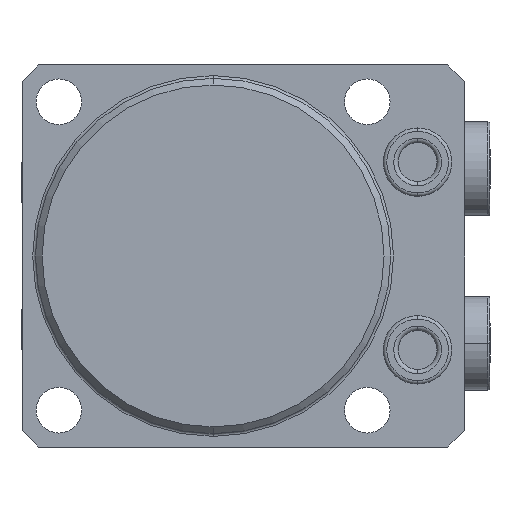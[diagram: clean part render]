
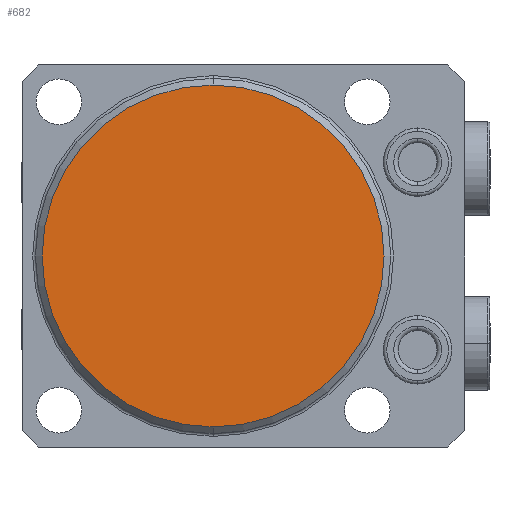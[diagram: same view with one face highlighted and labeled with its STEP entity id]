
A CAD part, front view. The second image highlights one B-rep face of the part: STEP entity #682.
In plain terms, the highlighted planar face has unit normal (0, -1, 0) as drawn and (0, 1, 0) by its records, which use the part's own axes.
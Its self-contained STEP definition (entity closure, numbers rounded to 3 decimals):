
#238=PLANE('',#4890);
#682=ADVANCED_FACE('',(#942),#238,.T.);
#942=FACE_OUTER_BOUND('',#1223,.F.);
#1223=EDGE_LOOP('',(#2843,#2844));
#2843=ORIENTED_EDGE('',*,*,#4065,.T.);
#2844=ORIENTED_EDGE('',*,*,#3970,.T.);
#3422=VERTEX_POINT('',#7450);
#3423=VERTEX_POINT('',#7451);
#3970=EDGE_CURVE('',#3422,#3423,#4374,.T.);
#4065=EDGE_CURVE('',#3423,#3422,#4394,.T.);
#4374=CIRCLE('',#4852,25.5);
#4394=CIRCLE('',#4889,25.5);
#4852=AXIS2_PLACEMENT_3D('',#7449,#6045,#6046);
#4889=AXIS2_PLACEMENT_3D('',#7721,#6169,#6170);
#4890=AXIS2_PLACEMENT_3D('',#7722,#6171,#6172);
#6045=DIRECTION('',(0.,-1.,0.));
#6046=DIRECTION('',(0.,0.,1.));
#6169=DIRECTION('',(0.,-1.,0.));
#6170=DIRECTION('',(0.,0.,1.));
#6171=DIRECTION('',(0.,1.,0.));
#6172=DIRECTION('',(0.,0.,1.));
#7449=CARTESIAN_POINT('',(0.,-42.5,0.));
#7450=CARTESIAN_POINT('',(0.,-42.5,-25.5));
#7451=CARTESIAN_POINT('',(0.,-42.5,25.5));
#7721=CARTESIAN_POINT('',(0.,-42.5,0.));
#7722=CARTESIAN_POINT('',(0.,-42.5,0.));
